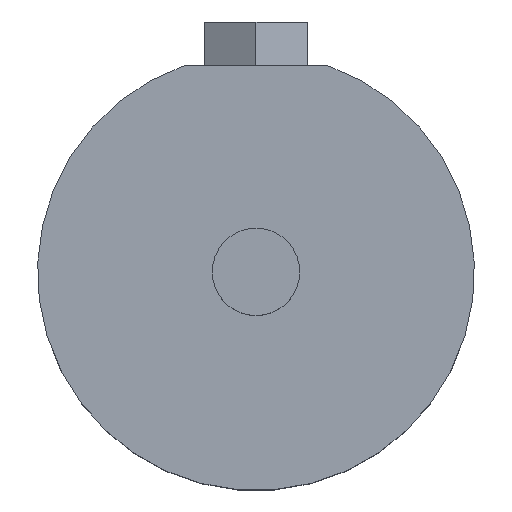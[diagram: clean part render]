
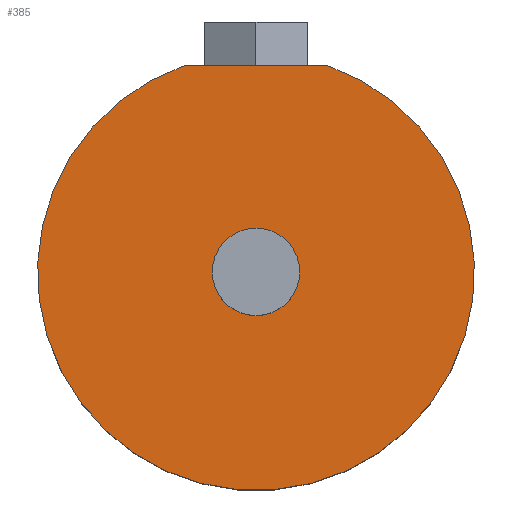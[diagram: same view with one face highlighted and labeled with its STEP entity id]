
A CAD part, top view. The second image highlights one B-rep face of the part: STEP entity #385.
In plain terms, the highlighted planar face has unit normal (0, 0, 1).
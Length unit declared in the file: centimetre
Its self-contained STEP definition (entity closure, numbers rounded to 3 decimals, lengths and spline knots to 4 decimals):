
#179=VERTEX_POINT('',#1651);
#180=VERTEX_POINT('',#1655);
#181=VERTEX_POINT('',#1656);
#213=EDGE_CURVE('',#179,#179,#673,.T.);
#214=EDGE_CURVE('',#180,#181,#674,.T.);
#218=EDGE_CURVE('',#181,#180,#522,.T.);
#282=ORIENTED_EDGE('',*,*,#213,.T.);
#283=ORIENTED_EDGE('',*,*,#214,.F.);
#284=ORIENTED_EDGE('',*,*,#218,.F.);
#320=EDGE_LOOP('',(#282));
#321=EDGE_LOOP('',(#283,#284));
#356=FACE_BOUND('',#320,.T.);
#357=FACE_BOUND('',#321,.T.);
#385=ADVANCED_FACE('',(#356,#357),#1220,.T.);
#522=LINE('',#1663,#1194);
#673=CIRCLE('',#1120,0.5);
#674=CIRCLE('',#1123,2.5);
#1120=AXIS2_PLACEMENT_3D('',#1650,#1423,#1424);
#1123=AXIS2_PLACEMENT_3D('',#1654,#1428,#1429);
#1126=AXIS2_PLACEMENT_3D('',#1665,#1437,$);
#1194=VECTOR('',#1435,1.);
#1220=PLANE('',#1126);
#1423=DIRECTION('',(0.,0.,-1.));
#1424=DIRECTION('',(0.5,0.,0.));
#1428=DIRECTION('',(0.,0.,-1.));
#1429=DIRECTION('',(2.5,0.,0.));
#1435=DIRECTION('',(1.,0.,0.));
#1437=DIRECTION('',(0.,0.,1.));
#1650=CARTESIAN_POINT('',(0.,0.,2.3));
#1651=CARTESIAN_POINT('',(0.5,0.,2.3));
#1654=CARTESIAN_POINT('',(0.,0.,2.3));
#1655=CARTESIAN_POINT('',(0.8214,2.3612,2.3));
#1656=CARTESIAN_POINT('',(-0.8214,2.3612,2.3));
#1663=CARTESIAN_POINT('',(-0.8214,2.3612,2.3));
#1665=CARTESIAN_POINT('',(0.,0.2077,2.3));
